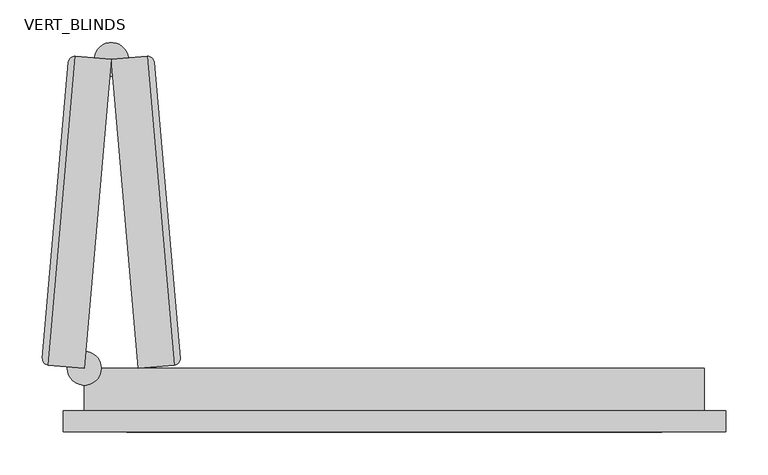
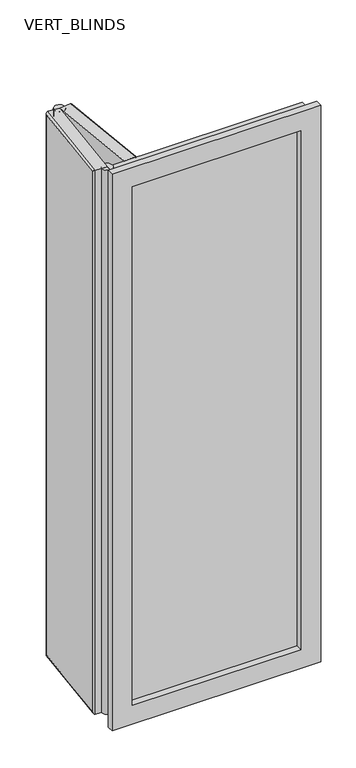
"""IFC4 building model written with IfcOpenShell, lengths in millimetres: plate geometry, CURTAIN PANEL VODA STYLE BIFOLDING : VERT_BLINDS."""

from ifc_helpers import new_model, si_unit, point, frame, frame_2d, origin, place, context, project, spatial, polyline, circle_curve, ellipse_curve, trimmed, segment, composite_curve, outline, extrude, faceted_brep, source, transform, mapped, element, save
from ifc_brep_helpers import plane_surface, cylinder_surface, advanced_brep


def vert_blinds_9a5ecf0d(model_context):
    return source(origin(), model_context, "Body", "SolidModel", [
        advanced_brep(
        [(-364.7172446, 50.0, 2175.0), (-332.9300423, 413.3293854, 2175.0), (-375.268317, 417.0335045, 2175.0), (-407.0555193, 53.7041191, 2175.0), (-332.9300423, 413.3293854, 25.0), (-364.7172446, 50.0, 25.0), (-407.0555193, 53.7041191, 25.0), (-375.268317, 417.0335045, 25.0), (-413.8733115, 61.8292474, 32.5), (-413.8733115, 61.8292474, 2167.5), (-383.3934453, 410.2157123, 2167.5), (-383.3934453, 410.2157123, 32.5)],
        [
            (0, 1),
            (1, 2),
            (2, 3),
            (3, 0),
            (4, 5),
            (5, 6),
            (6, 7),
            (7, 4),
            (1, 4),
            (7, 2),
            (8, 9),
            (9, 10),
            (10, 11),
            (11, 8),
            (5, 0),
            (3, 6),
            (8, 6, ellipse_curve(frame((-406.4018512, 61.1755793, 32.5), z_axis=(-0.06162841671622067, -0.7044160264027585, 0.7071067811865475), x_axis=(-0.06162841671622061, -0.7044160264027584, -0.7071067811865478)), 10.6066017, 7.5)),
            (3, 9, ellipse_curve(frame((-406.4018512, 61.1755793, 2167.5), z_axis=(-0.06162841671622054, -0.7044160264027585, -0.7071067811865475), x_axis=(0.06162841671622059, 0.7044160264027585, -0.7071067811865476)), 10.6066017, 7.5)),
            (11, 7, ellipse_curve(frame((-375.921985, 409.5620443, 32.5), z_axis=(-0.061628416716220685, -0.7044160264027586, -0.7071067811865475), x_axis=(0.0616284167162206, 0.7044160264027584, -0.7071067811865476)), 10.6066017, 7.5)),
            (10, 2, ellipse_curve(frame((-375.921985, 409.5620443, 2167.5), z_axis=(0.06162841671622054, 0.7044160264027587, -0.7071067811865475), x_axis=(0.0616284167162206, 0.7044160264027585, 0.7071067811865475)), 10.6066017, 7.5)),
        ],
        [
            plane_surface(frame((-382.7397772, 417.6871726, 2175.0), z_axis=(0.0, 0.0, 1.0), x_axis=(-0.9961946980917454, 0.0871557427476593, 0.0))),
            plane_surface(frame((-382.7397772, 417.6871726, 25.0), z_axis=(0.0, 0.0, -1.0), x_axis=(0.9961946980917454, -0.0871557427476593, 0.0))),
            plane_surface(frame((-332.9300423, 413.3293854, 2175.0), z_axis=(0.0871557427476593, 0.9961946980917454, 0.0), x_axis=(0.0, 0.0, -1.0))),
            plane_surface(frame((-382.7397772, 417.6871726, 2175.0), z_axis=(-0.9961946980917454, 0.08715574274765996, 0.0), x_axis=(0.0, 0.0, -1.0))),
            plane_surface(frame((-414.5269796, 54.3577871, 2175.0), z_axis=(-0.08715574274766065, -0.9961946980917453, 0.0), x_axis=(0.0, 0.0, -1.0))),
            plane_surface(frame((-364.7172446, 50.0, 2175.0), z_axis=(0.9961946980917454, -0.08715574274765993, 0.0), x_axis=(0.0, 0.0, -1.0))),
            cylinder_surface(frame((-406.4018512, 61.1755793, 2175.0), z_axis=(0.0, 0.0, -0.9999999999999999), x_axis=(0.9961946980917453, -0.08715574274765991, 0.0)), 7.5),
            cylinder_surface(frame((-407.0555193, 53.7041191, 32.5), z_axis=(0.08715574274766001, 0.9961946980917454, 0.0), x_axis=(0.9961946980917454, -0.08715574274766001, 0.0)), 7.5),
            cylinder_surface(frame((-375.921985, 409.5620443, 25.0), z_axis=(0.0, 0.0, 1.0000000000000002), x_axis=(0.9961946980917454, -0.08715574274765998, 0.0)), 7.5),
            cylinder_surface(frame((-375.268317, 417.0335045, 2167.5), z_axis=(-0.0871557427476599, -0.9961946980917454, 0.0), x_axis=(0.9961946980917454, -0.0871557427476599, 0.0)), 7.5),
        ],
        [
            (0, [[1, 2, 3, 4]]),
            (1, [[5, 6, 7, 8]]),
            (2, [[9, -8, 10, -2]]),
            (3, [[11, 12, 13, 14]]),
            (4, [[15, -4, 16, -6]]),
            (5, [[-1, -15, -5, -9]]),
            (6, [[17, -16, 18, -11]]),
            (7, [[-17, -14, 19, -7]]),
            (8, [[-19, -13, 20, -10]]),
            (9, [[-18, -3, -20, -12]]),
        ],
    ),
        advanced_brep(
        [(-332.9300423, 413.3293854, 2175.0), (-301.1428399, 50.0, 2175.0), (-258.8045653, 53.7041191, 2175.0), (-290.5917676, 417.0335045, 2175.0), (-301.1428399, 50.0, 25.0), (-332.9300423, 413.3293854, 25.0), (-290.5917676, 417.0335045, 25.0), (-258.8045653, 53.7041191, 25.0), (-282.4666393, 410.2157123, 32.5), (-282.4666393, 410.2157123, 2167.5), (-251.9867731, 61.8292474, 2167.5), (-251.9867731, 61.8292474, 32.5)],
        [
            (0, 1),
            (1, 2),
            (2, 3),
            (3, 0),
            (4, 5),
            (5, 6),
            (6, 7),
            (7, 4),
            (1, 4),
            (7, 2),
            (8, 9),
            (9, 10),
            (10, 11),
            (11, 8),
            (5, 0),
            (3, 6),
            (8, 6, ellipse_curve(frame((-289.9380996, 409.5620443, 32.5), z_axis=(-0.06162841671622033, 0.7044160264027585, 0.7071067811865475), x_axis=(-0.06162841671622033, 0.7044160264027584, -0.7071067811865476)), 10.6066017, 7.5)),
            (3, 9, ellipse_curve(frame((-289.9380996, 409.5620443, 2167.5), z_axis=(-0.06162841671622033, 0.7044160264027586, -0.7071067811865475), x_axis=(0.06162841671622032, -0.7044160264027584, -0.7071067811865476)), 10.6066017, 7.5)),
            (11, 7, ellipse_curve(frame((-259.4582333, 61.1755793, 32.5), z_axis=(-0.06162841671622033, 0.7044160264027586, -0.7071067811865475), x_axis=(0.06162841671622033, -0.7044160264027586, -0.7071067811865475)), 10.6066017, 7.5)),
            (10, 2, ellipse_curve(frame((-259.4582333, 61.1755793, 2167.5), z_axis=(0.061628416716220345, -0.7044160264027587, -0.7071067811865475), x_axis=(0.06162841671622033, -0.7044160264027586, 0.7071067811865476)), 10.6066017, 7.5)),
        ],
        [
            plane_surface(frame((-251.333105, 54.3577871, 2175.0), z_axis=(0.0, 0.0, 1.0), x_axis=(0.9961946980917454, 0.087155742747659, 0.0))),
            plane_surface(frame((-251.333105, 54.3577871, 25.0), z_axis=(0.0, 0.0, -1.0), x_axis=(-0.9961946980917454, -0.087155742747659, 0.0))),
            plane_surface(frame((-301.1428399, 50.0, 2175.0), z_axis=(0.087155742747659, -0.9961946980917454, 0.0), x_axis=(0.0, 0.0, -1.0))),
            plane_surface(frame((-251.333105, 54.3577871, 2175.0), z_axis=(0.9961946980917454, 0.08715574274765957, 0.0), x_axis=(0.0, 0.0, -1.0))),
            plane_surface(frame((-283.1203074, 417.6871726, 2175.0), z_axis=(-0.08715574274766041, 0.9961946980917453, 0.0), x_axis=(0.0, 0.0, -1.0))),
            plane_surface(frame((-332.9300423, 413.3293854, 2175.0), z_axis=(-0.9961946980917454, -0.08715574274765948, 0.0), x_axis=(0.0, 0.0, -1.0))),
            cylinder_surface(frame((-289.9380996, 409.5620443, 2175.0), z_axis=(0.0, 0.0, -1.0000000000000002), x_axis=(-0.9961946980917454, -0.08715574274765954, 0.0)), 7.5),
            cylinder_surface(frame((-290.5917676, 417.0335045, 32.5), z_axis=(0.08715574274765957, -0.9961946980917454, 0.0), x_axis=(-0.9961946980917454, -0.08715574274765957, 0.0)), 7.5),
            cylinder_surface(frame((-259.4582333, 61.1755793, 25.0), z_axis=(0.0, 0.0, 1.0), x_axis=(-0.9961946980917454, -0.0871557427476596, 0.0)), 7.5),
            cylinder_surface(frame((-258.8045653, 53.7041191, 2167.5), z_axis=(-0.08715574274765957, 0.9961946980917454, 0.0), x_axis=(-0.9961946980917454, -0.08715574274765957, 0.0)), 7.5),
        ],
        [
            (0, [[1, 2, 3, 4]]),
            (1, [[5, 6, 7, 8]]),
            (2, [[9, -8, 10, -2]]),
            (3, [[11, 12, 13, 14]]),
            (4, [[15, -4, 16, -6]]),
            (5, [[-1, -15, -5, -9]]),
            (6, [[17, -16, 18, -11]]),
            (7, [[-17, -14, 19, -7]]),
            (8, [[-19, -13, 20, -10]]),
            (9, [[-18, -3, -20, -12]]),
        ],
    ),
        extrude(outline(composite_curve([segment(trimmed(circle_curve(frame_2d((-364.7172446, 50.0)), 20.0), [point((-384.7172446, 50.0))], [point((-344.7172446, 50.0))], False, "CARTESIAN"), True, "CONTINUOUS"), segment(trimmed(circle_curve(frame_2d((-364.7172446, 50.0)), 20.0), [point((-344.7172446, 50.0))], [point((-384.7172446, 50.0))], False, "CARTESIAN"), True, "CONTINUOUS")], self_intersect=False)), frame((0.0, 0.0, 25.0), z_axis=(0.0, 0.0, 1.0), x_axis=(1.0, 0.0, 0.0)), (0.0, 0.0, 1.0), 2150.0),
        extrude(outline(composite_curve([segment(trimmed(circle_curve(frame_2d((-332.9300423, 413.3293854)), 20.0), [point((-334.6731572, 393.4054915))], [point((-331.1869274, 433.2532794))], False, "CARTESIAN"), True, "CONTINUOUS"), segment(trimmed(circle_curve(frame_2d((-332.9300423, 413.3293854)), 20.0), [point((-331.1869274, 433.2532794))], [point((-334.6731572, 393.4054915))], False, "CARTESIAN"), True, "CONTINUOUS")], self_intersect=False)), frame((0.0, 0.0, 25.0), z_axis=(0.0, 0.0, 1.0), x_axis=(1.0, 0.0, 0.0)), (0.0, 0.0, 1.0), 2150.0),
        extrude(outline(polyline([(-314.7172446, 24.0), (314.7172446, 24.0), (314.7172446, 0.0), (-314.7172446, 0.0), (-314.7172446, 24.0)])), frame((0.0, 0.0, 75.0), z_axis=(0.0, 0.0, 1.0), x_axis=(1.0, 0.0, 0.0)), (0.0, 0.0, 1.0), 2050.0),
        faceted_brep([(-314.7172446, 50.0, 2125.0), (-314.7172446, -25.0, 2125.0), (-314.7172446, -25.0, 75.0), (-314.7172446, 50.0, 75.0), (-389.7172446, -25.0, 2200.0), (-389.7172446, 0.0, 2200.0), (-389.7172446, 0.0, 0.0), (-389.7172446, -25.0, 0.0), (-364.7172446, 0.0, 2175.0), (-364.7172446, 50.0, 2175.0), (-364.7172446, 50.0, 25.0), (-364.7172446, 0.0, 25.0), (314.7172446, -25.0, 75.0), (314.7172446, 50.0, 75.0), (389.7172446, 0.0, 0.0), (389.7172446, -25.0, 0.0), (364.7172446, 50.0, 25.0), (364.7172446, 0.0, 25.0), (314.7172446, -25.0, 2125.0), (314.7172446, 50.0, 2125.0), (389.7172446, 0.0, 2200.0), (389.7172446, -25.0, 2200.0), (364.7172446, 50.0, 2175.0), (364.7172446, 0.0, 2175.0)], [[[0, 1, 2, 3]], [[4, 5, 6, 7]], [[8, 9, 10, 11]], [[3, 2, 12, 13]], [[7, 6, 14, 15]], [[11, 10, 16, 17]], [[13, 12, 18, 19]], [[15, 14, 20, 21]], [[17, 16, 22, 23]], [[9, 22, 16, 10], [3, 13, 19, 0]], [[19, 18, 1, 0]], [[7, 15, 21, 4], [1, 18, 12, 2]], [[21, 20, 5, 4]], [[5, 20, 14, 6], [11, 17, 23, 8]], [[23, 22, 9, 8]]]),
    ])


if __name__ == "__main__":
    model = new_model("IFC4")
    model_context = context("Model", 3, world=origin())
    ifc_project = project(units=[si_unit("LENGTHUNIT", "METRE", prefix="MILLI")], contexts=[model_context])
    site = spatial("IfcSite", under=ifc_project)
    building = spatial("IfcBuilding", under=site)
    placement = place(None, origin())
    vert_blinds_shape = vert_blinds_9a5ecf0d(model_context)
    element("IfcPlate", 1, ObjectType="CURTAIN PANEL VODA STYLE BIFOLDING : VERT_BLINDS", at=placement, inside=building, context=model_context, shape_type="MappedRepresentation", body=[
        mapped(vert_blinds_shape, transform((0.0, 0.0, 0.0), x_axis=(1.0, 0.0, 0.0), y_axis=(0.0, 1.0, 0.0), z_axis=(0.0, 0.0, 1.0))),
    ])
    save(model, "model.ifc")
